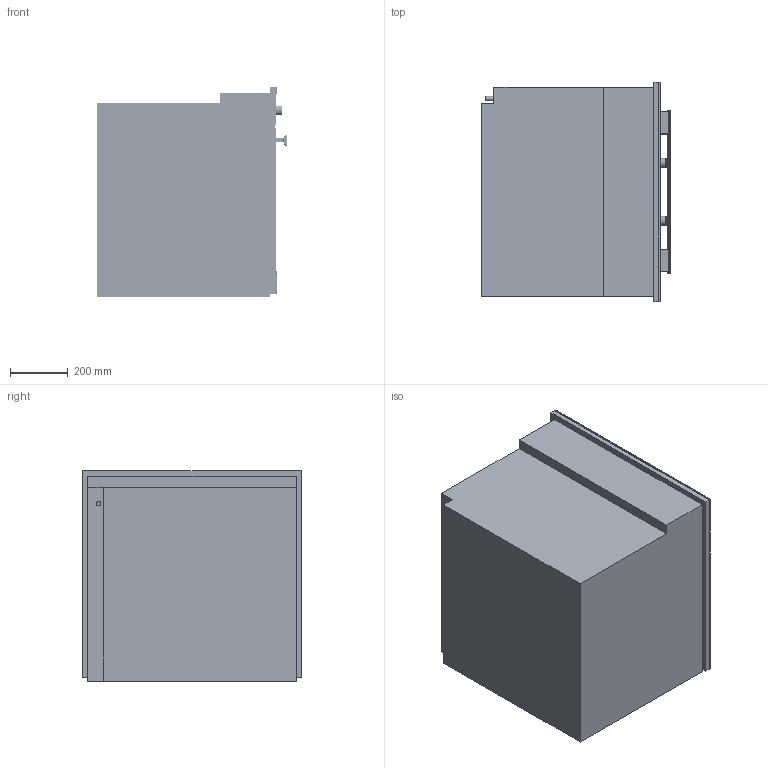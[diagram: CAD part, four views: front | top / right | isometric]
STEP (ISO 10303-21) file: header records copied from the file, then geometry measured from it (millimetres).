
FILE_DESCRIPTION(/* description */ (''),/* implementation_level */ '2;1');
FILE_NAME(/* name */ 'H6280BP_CLST',/* time_stamp */ '2013-10-29T11:30:57+01:00',/* author */ (''),/* organization */ (''),/* preprocessor_version */ 'ST-DEVELOPER v10',/* originating_system */ '',/* authorisation */ '');
FILE_SCHEMA (('AUTOMOTIVE_DESIGN_CC2'));
Length unit declared in the file: millimetre
Products named in the file (1): 1
Bounding box: 655.73 x 757 x 727 mm (x, y, z)
Volume: 176522274.1 mm3; surface area: 6281010.4 mm2
Topology: 47 solids, 48 shells, 240 faces, 399 edges, 256 vertices
Faces by surface type: bspline 240
Entity records: 87546 total; most frequent: CARTESIAN_POINT 84467, ORIENTED_EDGE 794, EDGE_CURVE 399, VERTEX_POINT 256, EDGE_LOOP 244, ADVANCED_FACE 240, FACE_OUTER_BOUND 240, B_SPLINE_CURVE_WITH_KNOTS 233
